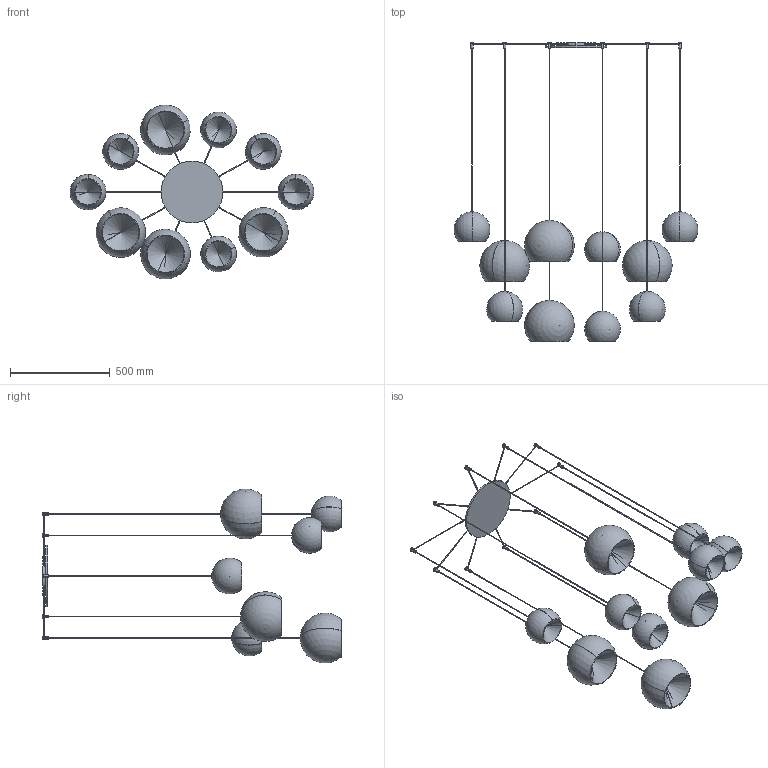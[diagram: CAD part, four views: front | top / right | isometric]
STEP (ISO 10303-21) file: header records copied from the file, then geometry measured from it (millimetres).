
FILE_DESCRIPTION (( 'STEP AP203' ), '1' );
FILE_NAME ('CRM10-00-CHERRY MIX_10 SOSPENSIONE.STEP', '2024-07-31T09:54:53', ( '' ), ( '' ), 'SwSTEP 2.0', 'SolidWorks 2022', '' );
FILE_SCHEMA (( 'CONFIG_CONTROL_DESIGN' ));
Length unit declared in the file: millimetre
Products named in the file (9): CHERRY_Lampada singola Diam.180_H=2000; CRM10-00-CHERRY MIX_10 SOSPENSIONE; CHERRY_Lampada singola Diam.180_H=1500; CHERRY MIX_Lampada singola Diam.250_H=1500; CHERRY_Lampada singola Diam.180_H=1600; CHERRY MIX_Rosone diam.310_Cherry 10<A macchina>; CHERRY MIX_Lampada singola Diam.250_H=1800; CHERRY MIX_Lampada singola Diam.250_H=1900; CHERRY_Lampada singola Diam.180_H=1900
Assembly tree (11 placements, depth 2):
  CRM10-00-CHERRY MIX_10 SOSPENSIONE
    CHERRY MIX_Rosone diam.310_Cherry 10<A macchina>
    CHERRY MIX_Lampada singola Diam.250_H=1900
    CHERRY_Lampada singola Diam.180_H=1500
    CHERRY_Lampada singola Diam.180_H=1600  x2
    CHERRY_Lampada singola Diam.180_H=2000  x2
    CHERRY MIX_Lampada singola Diam.250_H=1800  x2
    CHERRY_Lampada singola Diam.180_H=1900
    CHERRY MIX_Lampada singola Diam.250_H=1500
Bounding box: 1223.82 x 1500 x 872.65 mm (x, y, z)
Volume: 3971100.9 mm3; surface area: 3233471.9 mm2
Topology: 51 solids, 51 shells, 380 faces, 905 edges, 568 vertices
Faces by surface type: cylinder 185, plane 115, sphere 40, cone 40
Entity records: 8880 total; most frequent: CARTESIAN_POINT 1871, DIRECTION 1377, ORIENTED_EDGE 1134, AXIS2_PLACEMENT_3D 610, EDGE_CURVE 567, VERTEX_POINT 376, EDGE_LOOP 313, CIRCLE 312
